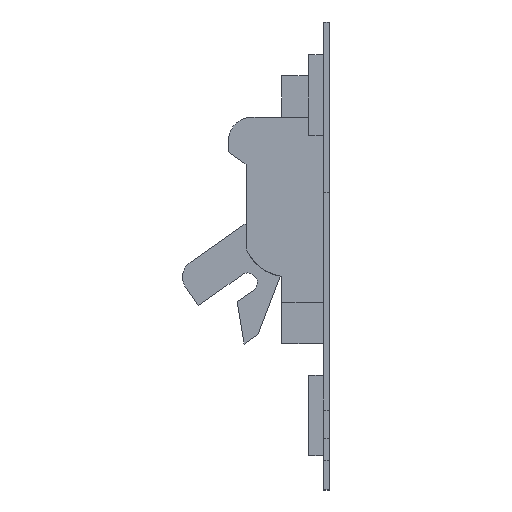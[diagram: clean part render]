
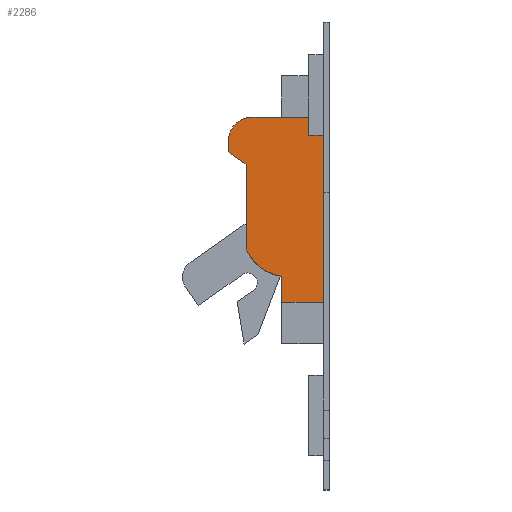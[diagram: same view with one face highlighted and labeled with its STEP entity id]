
A CAD part, left-side view. The second image highlights one B-rep face of the part: STEP entity #2286.
In plain terms, the highlighted planar face has unit normal (-1, 0, 0).
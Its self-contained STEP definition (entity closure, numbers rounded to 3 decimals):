
#186 = CARTESIAN_POINT ( 'NONE',  ( -13.5, 1., 88.1 ) ) ;
#201 = DIRECTION ( 'NONE',  ( 0., 0., 1. ) ) ;
#225 = CARTESIAN_POINT ( 'NONE',  ( -13.5, 17., 82.301 ) ) ;
#229 = CARTESIAN_POINT ( 'NONE',  ( -13.5, 8., 57.1 ) ) ;
#233 = CARTESIAN_POINT ( 'NONE',  ( -13.5, 13., 88.1 ) ) ;
#235 = CARTESIAN_POINT ( 'NONE',  ( -13.5, 17., 84.1 ) ) ;
#240 = DIRECTION ( 'NONE',  ( 0., 0., 1. ) ) ;
#310 = CARTESIAN_POINT ( 'NONE',  ( -13.5, 8., 61.4 ) ) ;
#320 = CARTESIAN_POINT ( 'NONE',  ( -13.5, 1., 57.1 ) ) ;
#326 = CARTESIAN_POINT ( 'NONE',  ( -13.5, 1., 88.1 ) ) ;
#328 = CARTESIAN_POINT ( 'NONE',  ( -13.5, 14., 66. ) ) ;
#350 = DIRECTION ( 'NONE',  ( 0., 0., -1. ) ) ;
#356 = CARTESIAN_POINT ( 'NONE',  ( -13.5, 14., 66. ) ) ;
#359 = DIRECTION ( 'NONE',  ( -1., 0., 0. ) ) ;
#363 = CARTESIAN_POINT ( 'NONE',  ( -13.5, 6.849, 69.115 ) ) ;
#368 = CARTESIAN_POINT ( 'NONE',  ( -13.5, 14., 80.2 ) ) ;
#586 = DIRECTION ( 'NONE',  ( 0., 0., -1. ) ) ;
#587 = CARTESIAN_POINT ( 'NONE',  ( -13.5, 8., 57.1 ) ) ;
#588 = DIRECTION ( 'NONE',  ( 0., -0.819, -0.574 ) ) ;
#589 = CARTESIAN_POINT ( 'NONE',  ( -13.5, 14., 80.2 ) ) ;
#592 = DIRECTION ( 'NONE',  ( 0., 0., -1. ) ) ;
#593 = CARTESIAN_POINT ( 'NONE',  ( -13.5, 17., 82.301 ) ) ;
#594 = DIRECTION ( 'NONE',  ( 0., 0., 1. ) ) ;
#595 = DIRECTION ( 'NONE',  ( -1., 0., 0. ) ) ;
#596 = CARTESIAN_POINT ( 'NONE',  ( -13.5, 13., 84.1 ) ) ;
#606 = DIRECTION ( 'NONE',  ( 0., 1., 0. ) ) ;
#607 = CARTESIAN_POINT ( 'NONE',  ( -13.5, 13., 88.1 ) ) ;
#612 = DIRECTION ( 'NONE',  ( 0., -1., 0. ) ) ;
#613 = CARTESIAN_POINT ( 'NONE',  ( -13.5, 1., 57.1 ) ) ;
#677 = AXIS2_PLACEMENT_3D ( 'NONE', #596, #595, #594 ) ;
#701 = AXIS2_PLACEMENT_3D ( 'NONE', #363, #359, #201 ) ;
#724 = EDGE_CURVE ( 'NONE', #1971, #2037, #1960, .T. ) ;
#730 = EDGE_CURVE ( 'NONE', #1966, #1971, #2158, .T. ) ;
#745 = EDGE_CURVE ( 'NONE', #2029, #2019, #1811, .T. ) ;
#808 = EDGE_CURVE ( 'NONE', #2156, #2029, #1274, .T. ) ;
#811 = EDGE_CURVE ( 'NONE', #2019, #2169, #1270, .T. ) ;
#815 = EDGE_CURVE ( 'NONE', #2169, #2150, #1936, .T. ) ;
#817 = EDGE_CURVE ( 'NONE', #2150, #2168, #2106, .T. ) ;
#819 = EDGE_CURVE ( 'NONE', #2168, #1966, #1544, .T. ) ;
#820 = EDGE_CURVE ( 'NONE', #2037, #2156, #1208, .T. ) ;
#901 = AXIS2_PLACEMENT_3D ( 'NONE', #1003, #998, #997 ) ;
#997 = DIRECTION ( 'NONE',  ( 0., 0., 1. ) ) ;
#998 = DIRECTION ( 'NONE',  ( 1., 0., 0. ) ) ;
#1003 = CARTESIAN_POINT ( 'NONE',  ( -13.5, 6.849, 69.115 ) ) ;
#1004 = PLANE ( 'NONE',  #901 ) ;
#1208 = LINE ( 'NONE', #587, #1652 ) ;
#1270 = LINE ( 'NONE', #607, #1703 ) ;
#1274 = LINE ( 'NONE', #613, #2199 ) ;
#1319 = VECTOR ( 'NONE', #240, 1000. ) ;
#1507 = VECTOR ( 'NONE', #592, 1000. ) ;
#1518 = VECTOR ( 'NONE', #588, 1000. ) ;
#1544 = LINE ( 'NONE', #589, #1518 ) ;
#1605 = ORIENTED_EDGE ( 'NONE', *, *, #808, .T. ) ;
#1610 = ORIENTED_EDGE ( 'NONE', *, *, #745, .T. ) ;
#1612 = ORIENTED_EDGE ( 'NONE', *, *, #811, .T. ) ;
#1613 = ORIENTED_EDGE ( 'NONE', *, *, #815, .T. ) ;
#1615 = ORIENTED_EDGE ( 'NONE', *, *, #817, .T. ) ;
#1619 = ORIENTED_EDGE ( 'NONE', *, *, #819, .T. ) ;
#1620 = ORIENTED_EDGE ( 'NONE', *, *, #730, .T. ) ;
#1621 = ORIENTED_EDGE ( 'NONE', *, *, #724, .T. ) ;
#1623 = ORIENTED_EDGE ( 'NONE', *, *, #820, .T. ) ;
#1652 = VECTOR ( 'NONE', #586, 1000. ) ;
#1703 = VECTOR ( 'NONE', #606, 1000. ) ;
#1811 = LINE ( 'NONE', #186, #1319 ) ;
#1916 = EDGE_LOOP ( 'NONE', ( #1605, #1610, #1612, #1613, #1615, #1619, #1620, #1621, #1623 ) ) ;
#1936 = CIRCLE ( 'NONE', #677, 4. ) ;
#1960 = CIRCLE ( 'NONE', #701, 7.8 ) ;
#1966 = VERTEX_POINT ( 'NONE', #368 ) ;
#1971 = VERTEX_POINT ( 'NONE', #356 ) ;
#2019 = VERTEX_POINT ( 'NONE', #326 ) ;
#2029 = VERTEX_POINT ( 'NONE', #320 ) ;
#2037 = VERTEX_POINT ( 'NONE', #310 ) ;
#2106 = LINE ( 'NONE', #593, #1507 ) ;
#2117 = VECTOR ( 'NONE', #350, 1000. ) ;
#2150 = VERTEX_POINT ( 'NONE', #235 ) ;
#2156 = VERTEX_POINT ( 'NONE', #229 ) ;
#2158 = LINE ( 'NONE', #328, #2117 ) ;
#2168 = VERTEX_POINT ( 'NONE', #225 ) ;
#2169 = VERTEX_POINT ( 'NONE', #233 ) ;
#2199 = VECTOR ( 'NONE', #612, 1000. ) ;
#2286 = ADVANCED_FACE ( 'NONE', ( #2309 ), #1004, .F. ) ;
#2309 = FACE_OUTER_BOUND ( 'NONE', #1916, .T. ) ;
